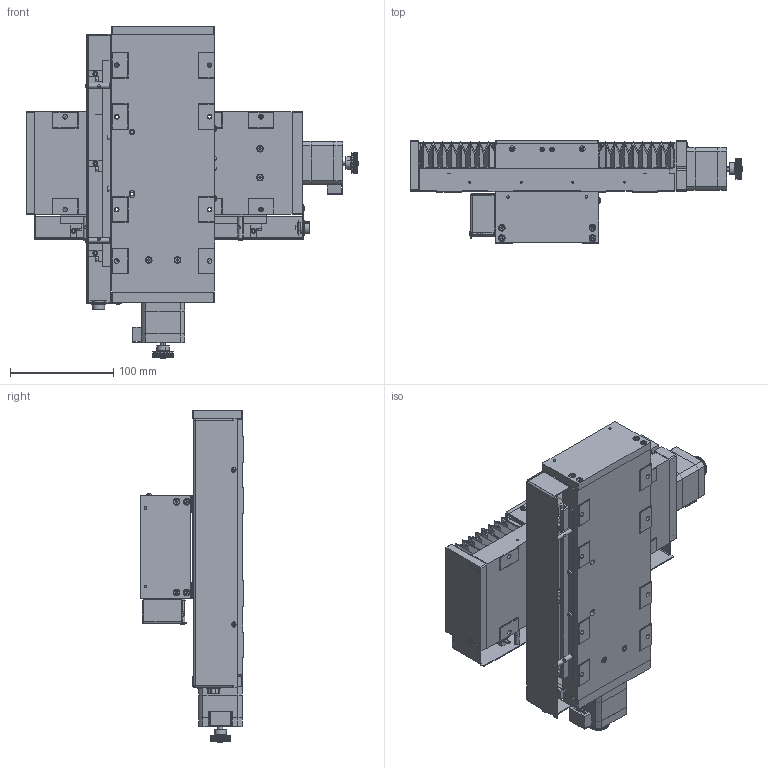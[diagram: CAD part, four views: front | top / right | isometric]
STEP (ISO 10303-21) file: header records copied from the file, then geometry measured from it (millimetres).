
FILE_DESCRIPTION (( 'STEP AP203' ), '1' );
FILE_NAME ('GYA100-100-A2OPR(«È¤á¥Î3D).STEP', '2024-04-24T06:07:07', ( '' ), ( '' ), 'SwSTEP 2.0', 'SolidWorks 2019', '' );
FILE_SCHEMA (( 'CONFIG_CONTROL_DESIGN' ));
Products named in the file (1): GYA100-100-A2OPR(客戶用3D)
Bounding box: 322 x 100 x 322 mm (x, y, z)
Surface area: 384310.5 mm2 (no closed solid volume)
Topology: 0 solids, 177 shells, 2530 faces, 9175 edges, 6524 vertices
Faces by surface type: plane 1511, cylinder 666, torus 178, cone 115, sphere 60
Entity records: 100246 total; most frequent: CARTESIAN_POINT 24378, DIRECTION 15615, ORIENTED_EDGE 14022, EDGE_CURVE 9083, VERTEX_POINT 6524, AXIS2_PLACEMENT_3D 5301, VECTOR 5013, LINE 5013
